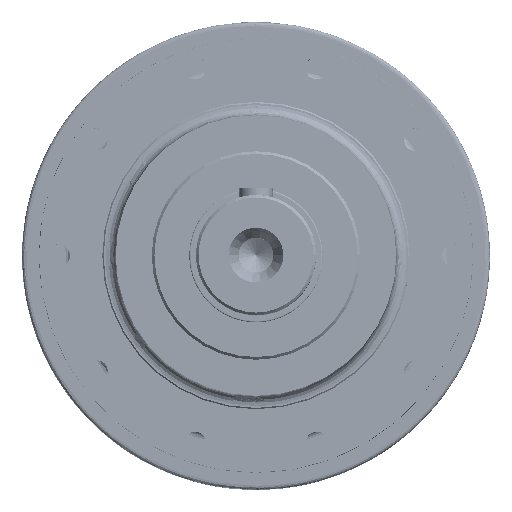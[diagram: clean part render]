
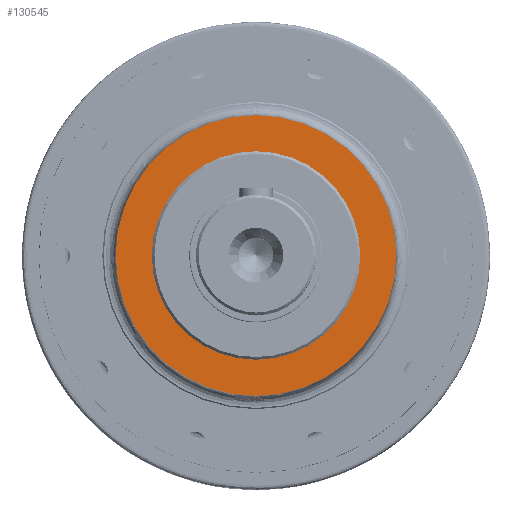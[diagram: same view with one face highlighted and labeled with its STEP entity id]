
A CAD part, top view. The second image highlights one B-rep face of the part: STEP entity #130545.
In plain terms, the highlighted planar face has unit normal (0, 0, 1).
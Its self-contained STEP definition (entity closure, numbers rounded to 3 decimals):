
#47172 = DIRECTION ( 'NONE',  ( 0., 0., -1. ) ) ;
#47223 = DIRECTION ( 'NONE',  ( 0., 1., 0. ) ) ;
#47276 = CARTESIAN_POINT ( 'NONE',  ( 0., 0., 181. ) ) ;
#60510 = ORIENTED_EDGE ( 'NONE', *, *, #78572, .T. ) ;
#60546 = ORIENTED_EDGE ( 'NONE', *, *, #78584, .F. ) ;
#60562 = ORIENTED_EDGE ( 'NONE', *, *, #78598, .F. ) ;
#60642 = ORIENTED_EDGE ( 'NONE', *, *, #78658, .T. ) ;
#78572 = EDGE_CURVE ( 'NONE', #291105, #85995, #195984, .T. ) ;
#78584 = EDGE_CURVE ( 'NONE', #86224, #86212, #196058, .T. ) ;
#78598 = EDGE_CURVE ( 'NONE', #86212, #86224, #196061, .T. ) ;
#78658 = EDGE_CURVE ( 'NONE', #85995, #291105, #191611, .T. ) ;
#85995 = VERTEX_POINT ( 'NONE', #224062 ) ;
#86212 = VERTEX_POINT ( 'NONE', #124379 ) ;
#86224 = VERTEX_POINT ( 'NONE', #124833 ) ;
#118893 = AXIS2_PLACEMENT_3D ( 'NONE', #177701, #177799, #177782 ) ;
#118922 = AXIS2_PLACEMENT_3D ( 'NONE', #47276, #47172, #47223 ) ;
#118935 = AXIS2_PLACEMENT_3D ( 'NONE', #177897, #177954, #178018 ) ;
#119012 = AXIS2_PLACEMENT_3D ( 'NONE', #177756, #177685, #177806 ) ;
#124379 = CARTESIAN_POINT ( 'NONE',  ( 0., -105., 181. ) ) ;
#124833 = CARTESIAN_POINT ( 'NONE',  ( 0., 105., 181. ) ) ;
#130545 = ADVANCED_FACE ( 'NONE', ( #185708, #185679 ), #277158, .T. ) ;
#145414 = EDGE_LOOP ( 'NONE', ( #60546, #60562 ) ) ;
#148729 = EDGE_LOOP ( 'NONE', ( #60510, #60642 ) ) ;
#177685 = DIRECTION ( 'NONE',  ( 0., 0., -1. ) ) ;
#177701 = CARTESIAN_POINT ( 'NONE',  ( 0., 0., 181. ) ) ;
#177756 = CARTESIAN_POINT ( 'NONE',  ( 0., 0., 181. ) ) ;
#177782 = DIRECTION ( 'NONE',  ( 0., 1., 0. ) ) ;
#177799 = DIRECTION ( 'NONE',  ( 0., 0., -1. ) ) ;
#177806 = DIRECTION ( 'NONE',  ( 0., 1., 0. ) ) ;
#177897 = CARTESIAN_POINT ( 'NONE',  ( 0., 0., 181. ) ) ;
#177954 = DIRECTION ( 'NONE',  ( 0., 0., -1. ) ) ;
#178018 = DIRECTION ( 'NONE',  ( 0., 1., 0. ) ) ;
#185679 = FACE_BOUND ( 'NONE', #148729, .T. ) ;
#185708 = FACE_OUTER_BOUND ( 'NONE', #145414, .T. ) ;
#191611 = CIRCLE ( 'NONE', #118922, 78. ) ;
#195984 = CIRCLE ( 'NONE', #118893, 78. ) ;
#196058 = CIRCLE ( 'NONE', #119012, 105. ) ;
#196061 = CIRCLE ( 'NONE', #118935, 105. ) ;
#224062 = CARTESIAN_POINT ( 'NONE',  ( 0., -78., 181. ) ) ;
#249684 = CARTESIAN_POINT ( 'NONE',  ( 0., 78., 181. ) ) ;
#256726 = AXIS2_PLACEMENT_3D ( 'NONE', #277413, #277379, #277390 ) ;
#277158 = PLANE ( 'NONE',  #256726 ) ;
#277379 = DIRECTION ( 'NONE',  ( 0., 0., 1. ) ) ;
#277390 = DIRECTION ( 'NONE',  ( 0., -1., 0. ) ) ;
#277413 = CARTESIAN_POINT ( 'NONE',  ( 0., 105., 181. ) ) ;
#291105 = VERTEX_POINT ( 'NONE', #249684 ) ;
